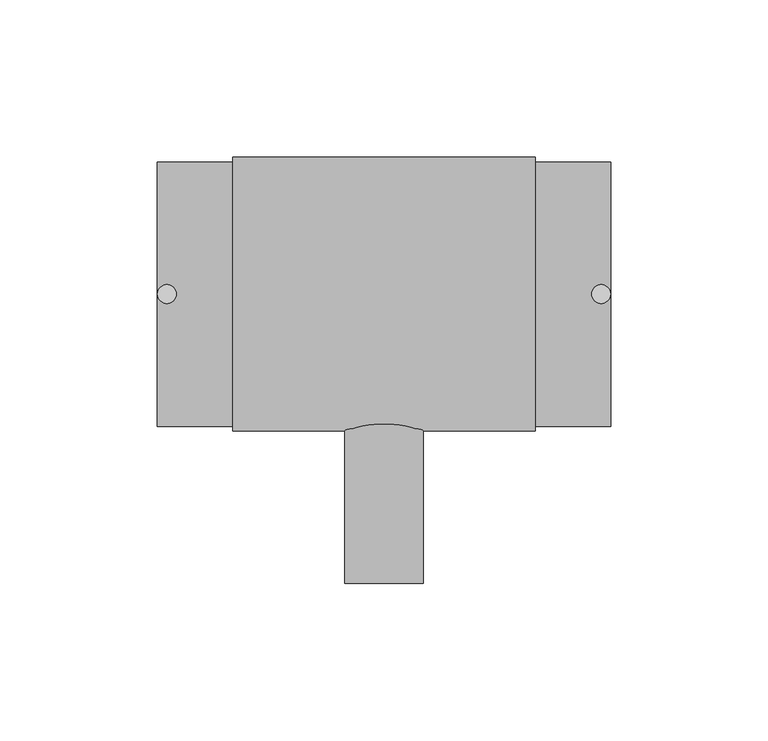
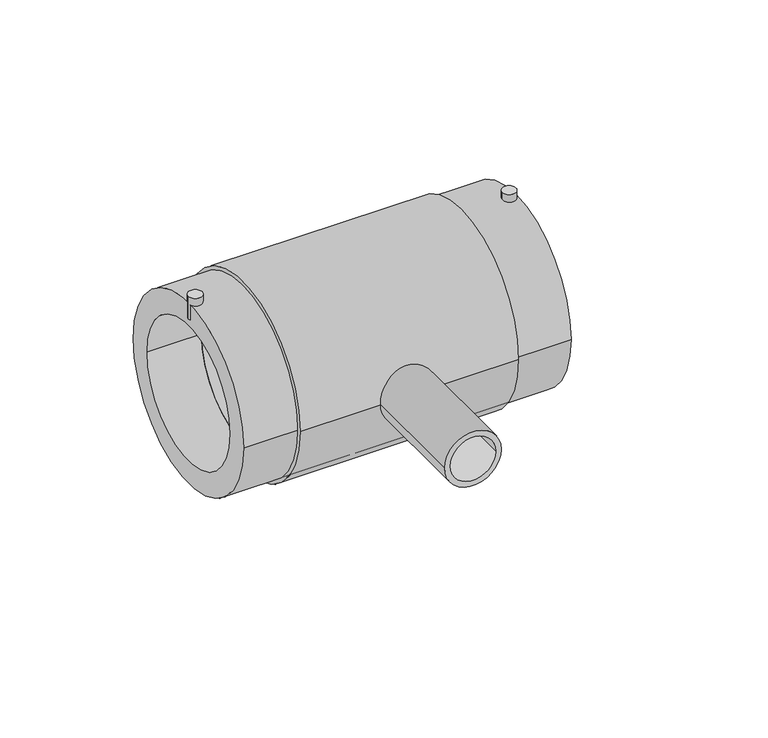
"""IFC4 building model written with IfcOpenShell, lengths in millimetres: pipe fitting geometry, EGB_VASEN_ PPR_Te electrosoldable WXRD300_Te reducida electrosoldable WXRD310 : Te electrosoldable."""

from ifc_helpers import new_model, si_unit, point, frame, frame_2d, origin, origin_2d, place, context, project, spatial, circle_curve, trimmed, segment, composite_curve, outline, extrude, source, transform, mapped, element, save


def pipe_fitting_f60928ed(model_context):
    return source(origin(), model_context, "Body", "SweptSolid", [
        extrude(outline(composite_curve([segment(trimmed(circle_curve(frame_2d((-69.0, 0.0)), 3.0), [point((-72.0, 0.0))], [point((-66.0, 0.0))], False, "CARTESIAN"), True, "CONTINUOUS"), segment(trimmed(circle_curve(frame_2d((-69.0, 0.0)), 3.0), [point((-66.0, 0.0))], [point((-72.0, 0.0))], False, "CARTESIAN"), True, "CONTINUOUS")], self_intersect=False)), frame((0.0, 0.0, 34.5), z_axis=(0.0, 0.0, 1.0), x_axis=(1.0, 0.0, 0.0)), (0.0, 0.0, 1.0), 10.5),
        extrude(outline(composite_curve([segment(trimmed(circle_curve(frame_2d((69.0, 0.0)), 3.0), [point((66.0, 0.0))], [point((72.0, 0.0))], False, "CARTESIAN"), True, "CONTINUOUS"), segment(trimmed(circle_curve(frame_2d((69.0, 0.0)), 3.0), [point((72.0, 0.0))], [point((66.0, 0.0))], False, "CARTESIAN"), True, "CONTINUOUS")], self_intersect=False)), frame((0.0, 0.0, 34.5), z_axis=(0.0, 0.0, 1.0), x_axis=(1.0, 0.0, 0.0)), (0.0, 0.0, 1.0), 10.5),
        extrude(outline(composite_curve([segment(trimmed(circle_curve(origin_2d(), 15.0), [point((0.0, 15.0))], [point((0.0, -15.0))], False, "CARTESIAN"), True, "CONTINUOUS"), segment(trimmed(circle_curve(origin_2d(), 15.0), [point((0.0, -15.0))], [point((0.0, 15.0))], False, "CARTESIAN"), True, "CONTINUOUS")], self_intersect=False)), frame((0.0, -36.8, 0.0), z_axis=(0.0, 1.0, 0.0), x_axis=(0.0, 0.0, 1.0)), (0.0, 0.0, 1.0), 36.8),
        extrude(outline(composite_curve([segment(trimmed(circle_curve(origin_2d(), 12.5), [point((0.0, -12.5))], [point((0.0, 12.5))], False, "CARTESIAN"), True, "CONTINUOUS"), segment(trimmed(circle_curve(origin_2d(), 12.5), [point((0.0, 12.5))], [point((0.0, -12.5))], False, "CARTESIAN"), True, "CONTINUOUS")], self_intersect=False), holes=[composite_curve([segment(trimmed(circle_curve(origin_2d(), 10.0), [point((0.0, -10.0))], [point((0.0, 10.0))], True, "CARTESIAN"), True, "CONTINUOUS"), segment(trimmed(circle_curve(origin_2d(), 10.0), [point((0.0, 10.0))], [point((0.0, -10.0))], True, "CARTESIAN"), True, "CONTINUOUS")], self_intersect=False)]), frame((0.0, -92.0, 0.0), z_axis=(0.0, 1.0, 0.0), x_axis=(0.0, 0.0, 1.0)), (0.0, 0.0, 1.0), 55.2),
        extrude(outline(composite_curve([segment(trimmed(circle_curve(origin_2d(), 43.5), [point((-43.5, 0.0))], [point((43.5, 0.0))], False, "CARTESIAN"), True, "CONTINUOUS"), segment(trimmed(circle_curve(origin_2d(), 43.5), [point((43.5, 0.0))], [point((-43.5, 0.0))], False, "CARTESIAN"), True, "CONTINUOUS")], self_intersect=False), holes=[composite_curve([segment(trimmed(circle_curve(origin_2d(), 31.5), [point((-31.5, 0.0))], [point((31.5, 0.0))], True, "CARTESIAN"), True, "CONTINUOUS"), segment(trimmed(circle_curve(origin_2d(), 31.5), [point((31.5, 0.0))], [point((-31.5, 0.0))], True, "CARTESIAN"), True, "CONTINUOUS")], self_intersect=False)]), frame((-48.0, 0.0, 0.0), z_axis=(1.0, 0.0, 0.0), x_axis=(0.0, 1.0, 0.0)), (0.0, 0.0, 1.0), 96.0),
        extrude(outline(composite_curve([segment(trimmed(circle_curve(origin_2d(), 42.0), [point((-42.0, 0.0))], [point((42.0, 0.0))], False, "CARTESIAN"), True, "CONTINUOUS"), segment(trimmed(circle_curve(origin_2d(), 42.0), [point((42.0, 0.0))], [point((-42.0, 0.0))], False, "CARTESIAN"), True, "CONTINUOUS")], self_intersect=False), holes=[composite_curve([segment(trimmed(circle_curve(origin_2d(), 31.5), [point((-31.5, 0.0))], [point((31.5, 0.0))], True, "CARTESIAN"), True, "CONTINUOUS"), segment(trimmed(circle_curve(origin_2d(), 31.5), [point((31.5, 0.0))], [point((-31.5, 0.0))], True, "CARTESIAN"), True, "CONTINUOUS")], self_intersect=False)]), frame((-72.0, 0.0, 0.0), z_axis=(1.0, 0.0, 0.0), x_axis=(0.0, 1.0, 0.0)), (0.0, 0.0, 1.0), 144.0),
    ])


if __name__ == "__main__":
    model = new_model("IFC4")
    model_context = context("Model", 3, world=origin())
    ifc_project = project(units=[si_unit("LENGTHUNIT", "METRE", prefix="MILLI")], contexts=[model_context])
    site = spatial("IfcSite", under=ifc_project)
    building = spatial("IfcBuilding", under=site)
    placement = place(None, origin())
    pipe_fitting_shape = pipe_fitting_f60928ed(model_context)
    element("IfcPipeFitting", 1, ObjectType="EGB_VASEN_ PPR_Te electrosoldable WXRD300_Te reducida electrosoldable WXRD310 : Te electrosoldable", at=placement, inside=building, context=model_context, shape_type="MappedRepresentation", body=[
        mapped(pipe_fitting_shape, transform((0.0, 0.0, 0.0), x_axis=(1.0, 0.0, 0.0), y_axis=(0.0, 1.0, 0.0), z_axis=(0.0, 0.0, 1.0))),
    ])
    save(model, "model.ifc")
